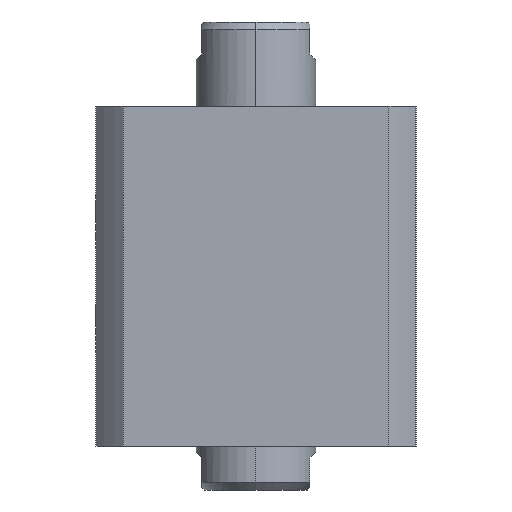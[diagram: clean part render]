
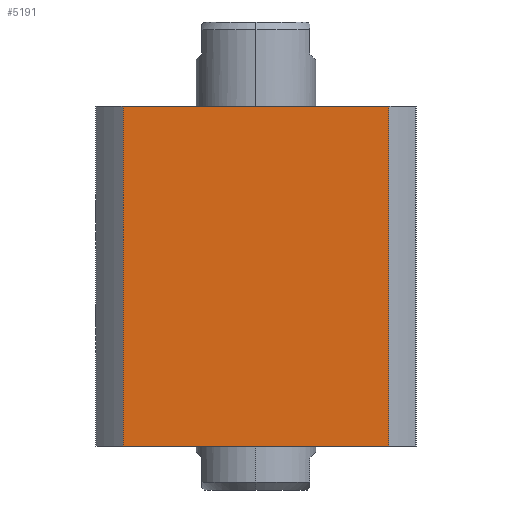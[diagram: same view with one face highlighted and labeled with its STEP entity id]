
A CAD part, left-side view. The second image highlights one B-rep face of the part: STEP entity #5191.
In plain terms, the highlighted planar face has unit normal (-1, 0, 0).
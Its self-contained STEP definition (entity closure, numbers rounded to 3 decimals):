
#14 = EDGE_LOOP ( 'NONE', ( #3966, #2086, #6389, #1044 ) ) ;
#212 = CARTESIAN_POINT ( 'NONE',  ( -40., -33.226, 42.5 ) ) ;
#262 = CARTESIAN_POINT ( 'NONE',  ( -40., -33.226, 42.5 ) ) ;
#1044 = ORIENTED_EDGE ( 'NONE', *, *, #4643, .T. ) ;
#1220 = VECTOR ( 'NONE', #2451, 1000. ) ;
#1411 = DIRECTION ( 'NONE',  ( 0., 1., 0. ) ) ;
#1862 = AXIS2_PLACEMENT_3D ( 'NONE', #2841, #9566, #1411 ) ;
#2072 = PLANE ( 'NONE',  #1862 ) ;
#2086 = ORIENTED_EDGE ( 'NONE', *, *, #2945, .F. ) ;
#2451 = DIRECTION ( 'NONE',  ( 0., 0., -1. ) ) ;
#2841 = CARTESIAN_POINT ( 'NONE',  ( -40., 33.226, 42.5 ) ) ;
#2945 = EDGE_CURVE ( 'NONE', #6071, #3096, #7819, .T. ) ;
#3096 = VERTEX_POINT ( 'NONE', #9774 ) ;
#3532 = VERTEX_POINT ( 'NONE', #7680 ) ;
#3696 = DIRECTION ( 'NONE',  ( 0., 0., -1. ) ) ;
#3853 = EDGE_CURVE ( 'NONE', #3532, #6071, #7222, .T. ) ;
#3966 = ORIENTED_EDGE ( 'NONE', *, *, #6377, .T. ) ;
#4251 = CARTESIAN_POINT ( 'NONE',  ( -40., 33.226, 42.5 ) ) ;
#4393 = FACE_OUTER_BOUND ( 'NONE', #14, .T. ) ;
#4458 = CARTESIAN_POINT ( 'NONE',  ( -40., 33.226, -42.5 ) ) ;
#4643 = EDGE_CURVE ( 'NONE', #3532, #5453, #5788, .T. ) ;
#5191 = ADVANCED_FACE ( 'NONE', ( #4393 ), #2072, .F. ) ;
#5453 = VERTEX_POINT ( 'NONE', #7000 ) ;
#5757 = DIRECTION ( 'NONE',  ( 0., -1., 0. ) ) ;
#5788 = LINE ( 'NONE', #8906, #7689 ) ;
#5959 = DIRECTION ( 'NONE',  ( 0., -1., 0. ) ) ;
#6071 = VERTEX_POINT ( 'NONE', #262 ) ;
#6377 = EDGE_CURVE ( 'NONE', #5453, #3096, #7377, .T. ) ;
#6389 = ORIENTED_EDGE ( 'NONE', *, *, #3853, .F. ) ;
#6915 = VECTOR ( 'NONE', #5959, 1000. ) ;
#7000 = CARTESIAN_POINT ( 'NONE',  ( -40., 33.226, -42.5 ) ) ;
#7222 = LINE ( 'NONE', #4251, #7337 ) ;
#7337 = VECTOR ( 'NONE', #5757, 1000. ) ;
#7377 = LINE ( 'NONE', #4458, #6915 ) ;
#7680 = CARTESIAN_POINT ( 'NONE',  ( -40., 33.226, 42.5 ) ) ;
#7689 = VECTOR ( 'NONE', #3696, 1000. ) ;
#7819 = LINE ( 'NONE', #212, #1220 ) ;
#8906 = CARTESIAN_POINT ( 'NONE',  ( -40., 33.226, 42.5 ) ) ;
#9566 = DIRECTION ( 'NONE',  ( 1., 0., 0. ) ) ;
#9774 = CARTESIAN_POINT ( 'NONE',  ( -40., -33.226, -42.5 ) ) ;
